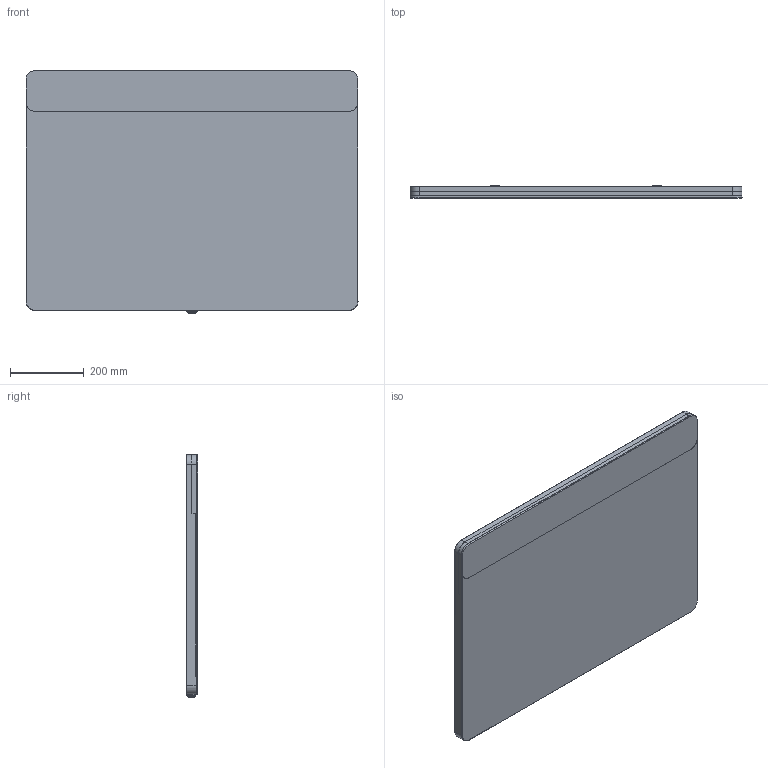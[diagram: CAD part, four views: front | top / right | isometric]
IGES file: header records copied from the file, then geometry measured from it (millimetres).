
Global section: file name: 819200000; native system: Autodesk Inventor 2018; preprocessor: unknown; date: 20200306.075742; units: millimetre
Bounding box: 900 x 32.01 x 657.5 mm (x, y, z)
Volume: 3405560.2 mm3; surface area: 1706364.8 mm2
Topology: 13 solids, 13 shells, 329 faces, 852 edges, 543 vertices
Faces by surface type: bspline 329
